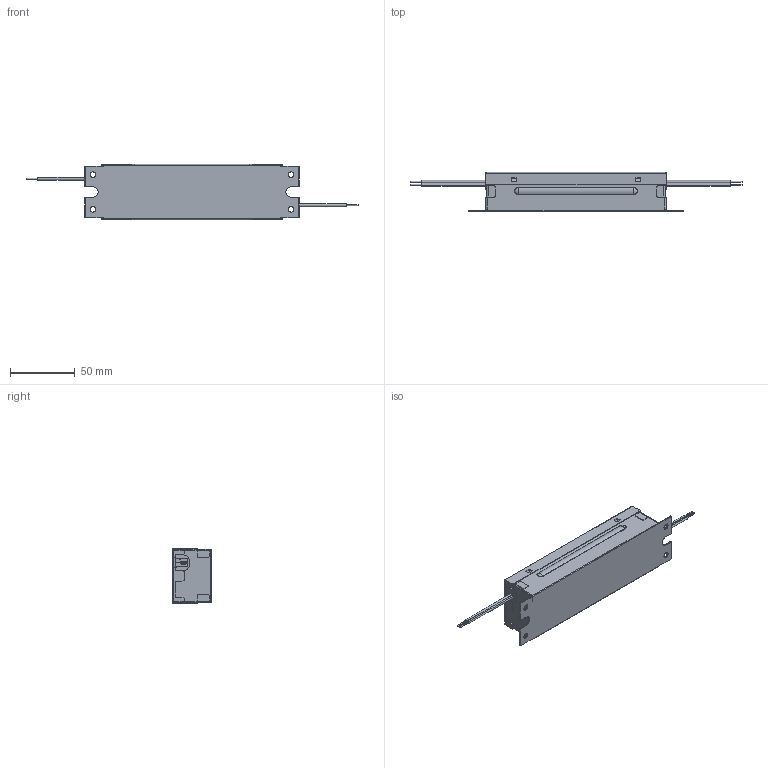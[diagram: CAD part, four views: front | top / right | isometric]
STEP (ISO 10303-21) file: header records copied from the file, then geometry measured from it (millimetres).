
FILE_DESCRIPTION (( 'STEP AP203' ), '1' );
FILE_NAME ('3D_USVI-060012FH.STEP', '2020-05-25T01:04:40', ( '' ), ( '' ), 'SwSTEP 2.0', 'SolidWorks 2016', '' );
FILE_SCHEMA (( 'CONFIG_CONTROL_DESIGN' ));
Length unit declared in the file: millimetre
Products named in the file (7): 399214550000; White wire; Red wire; Black wire; SR (2 Wires); 3D_USVI-060012FH; 399214550001
Assembly tree (8 placements, depth 2):
  3D_USVI-060012FH
    399214550001
    399214550000
    SR (2 Wires)  x2
    Black wire  x2
    White wire
    Red wire
Bounding box: 255.4 x 30 x 42.9 mm (x, y, z)
Volume: 14498.9 mm3; surface area: 56403.9 mm2
Topology: 8 solids, 8 shells, 584 faces, 1522 edges, 956 vertices
Faces by surface type: plane 410, cylinder 158, sphere 8, torus 8
Entity records: 17126 total; most frequent: CARTESIAN_POINT 2932, ORIENTED_EDGE 2804, DIRECTION 2783, EDGE_CURVE 1402, LINE 1057, VECTOR 1057, VERTEX_POINT 876, AXIS2_PLACEMENT_3D 863
